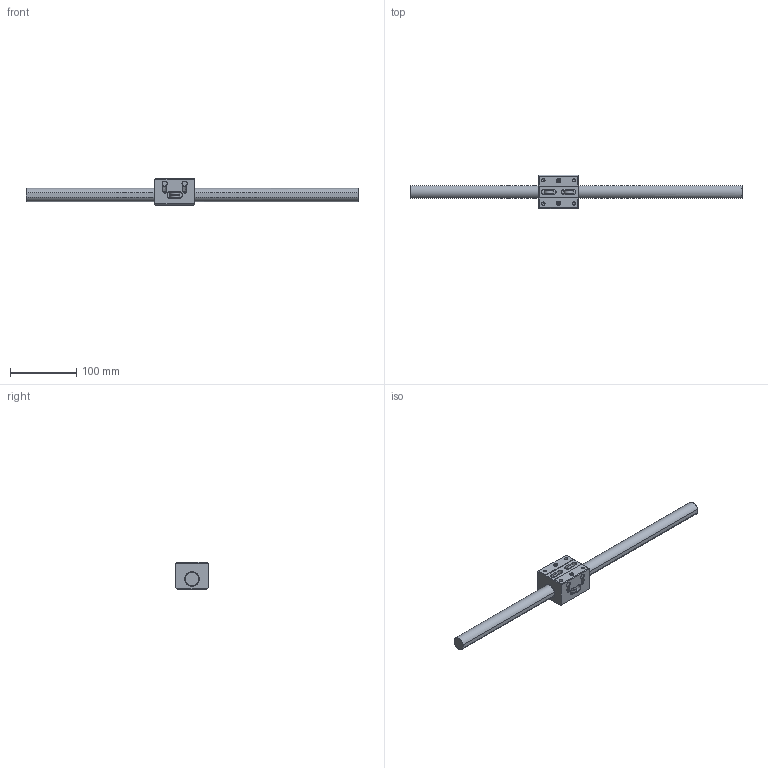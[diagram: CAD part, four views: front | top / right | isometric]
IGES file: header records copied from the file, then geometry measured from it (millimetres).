
Global section: file name: No Iges File Name specified; native system: AutoDesk Inventor R10; preprocessor: AutoDesk Inventor Iges Exporter R10; author: No Author specified; organization: No Organization specified; date: 20101222.154910; units: millimetre
Bounding box: 500 x 50 x 41 mm (x, y, z)
Surface area: 59916.7 mm2 (no closed solid volume)
Topology: 0 solids, 0 shells, 356 faces, 2782 edges, 2758 vertices
Faces by surface type: bspline 356
